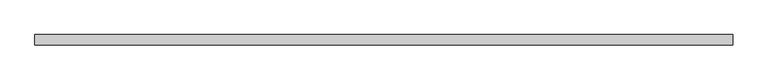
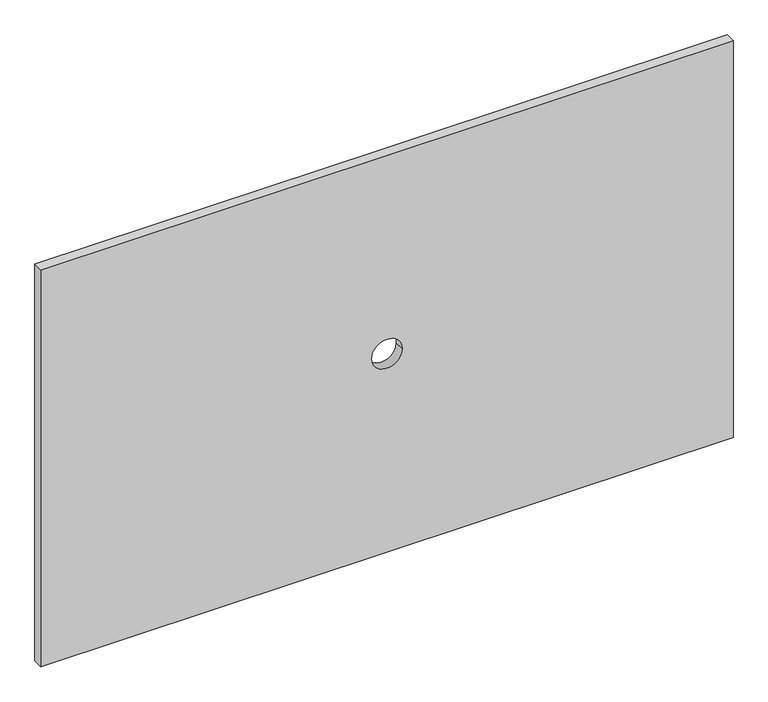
"""IFC4 building model written with IfcOpenShell, lengths in millimetres: furniture geometry, Painel de Suporte da TV : Painel de Suporte da TV."""

from ifc_helpers import new_model, si_unit, frame, origin, place, context, project, spatial, polyline, circle_curve, source, transform, mapped, element, save
from ifc_brep_helpers import plane_surface, revolved_surface, advanced_brep


def furniture_2331d2df(model_context):
    return source(origin(), model_context, "Body", "AdvancedBrep", [
        advanced_brep(
        [(0.0, 20.0, 825.0), (0.0, 0.0, 825.0), (1360.0, 0.0, 825.0), (1360.0, 20.0, 825.0), (680.0, 20.0, 825.0), (0.0, 20.0, 0.0), (680.0, 20.0, 0.0), (1360.0, 20.0, 0.0), (1360.0, 0.0, 0.0), (0.0, 0.0, 0.0), (650.0, 0.0, 412.5), (710.0, 0.0, 412.5), (680.0, 20.0, 382.5), (710.0, 20.0, 412.5), (680.0, 20.0, 442.5), (650.0, 20.0, 412.5)],
        [
            (0, 1),
            (1, 2),
            (2, 3),
            (3, 4),
            (4, 0),
            (5, 6),
            (6, 7),
            (7, 8),
            (8, 9),
            (9, 5),
            (0, 5),
            (9, 1),
            (8, 2),
            (10, 11, circle_curve(frame((680.0, 0.0, 412.5), z_axis=(0.0, 1.0, 0.0), x_axis=(1.0, 0.0, 0.0)), 30.0)),
            (11, 10, circle_curve(frame((680.0, 0.0, 412.5), z_axis=(0.0, 1.0, 0.0), x_axis=(1.0, 0.0, 0.0)), 30.0)),
            (7, 3),
            (6, 12),
            (12, 13, circle_curve(frame((680.0, 20.0, 412.5), z_axis=(0.0, -1.0, 0.0), x_axis=(1.0, 0.0, 0.0)), 30.0)),
            (13, 14, circle_curve(frame((680.0, 20.0, 412.5), z_axis=(0.0, -1.0, 0.0), x_axis=(1.0, 0.0, 0.0)), 30.0)),
            (14, 4),
            (14, 15, circle_curve(frame((680.0, 20.0, 412.5), z_axis=(0.0, -1.0, 0.0), x_axis=(1.0, 0.0, 0.0)), 30.0)),
            (15, 12, circle_curve(frame((680.0, 20.0, 412.5), z_axis=(0.0, -1.0, 0.0), x_axis=(1.0, 0.0, 0.0)), 30.0)),
            (13, 11),
            (10, 15),
        ],
        [
            plane_surface(frame((0.0, 20.0, 825.0), z_axis=(0.0, 0.0, 1.0), x_axis=(0.0, -1.0, 0.0))),
            plane_surface(frame((0.0, 20.0, 0.0), z_axis=(0.0, 0.0, -1.0), x_axis=(0.0, 1.0, 0.0))),
            plane_surface(frame((0.0, 20.0, 825.0), z_axis=(-1.0, 0.0, 0.0), x_axis=(0.0, 0.0, -1.0))),
            plane_surface(frame((0.0, 0.0, 825.0), z_axis=(0.0, -1.0, 0.0), x_axis=(0.0, 0.0, -1.0))),
            plane_surface(frame((1360.0, 0.0, 825.0), z_axis=(1.0, 0.0, 0.0), x_axis=(0.0, 0.0, -1.0))),
            plane_surface(frame((1360.0, 20.0, 825.0), z_axis=(0.0, 1.0, 0.0), x_axis=(0.0, 0.0, -1.0))),
            plane_surface(frame((680.0, 20.0, 825.0), z_axis=(0.0, 1.0, 0.0), x_axis=(0.0, 0.0, -1.0))),
            revolved_surface(polyline([(710.0, 20.0, 412.5), (710.0, 0.0, 412.5)]), (680.0, 0.0, 412.5), (0.0, 1.0, 0.0)),
        ],
        [
            (0, [[1, 2, 3, 4, 5]]),
            (1, [[6, 7, 8, 9, 10]]),
            (2, [[-1, 11, -10, 12]]),
            (3, [[-2, -12, -9, 13], [14, 15]]),
            (4, [[-3, -13, -8, 16]]),
            (5, [[-4, -16, -7, 17, 18, 19, 20]]),
            (6, [[-5, -20, 21, 22, -17, -6, -11]]),
            (7, [[23, -14, 24, -21, -19]]),
            (7, [[-23, -18, -22, -24, -15]]),
        ],
    ),
    ])


if __name__ == "__main__":
    model = new_model("IFC4")
    model_context = context("Model", 3, world=origin())
    ifc_project = project(units=[si_unit("LENGTHUNIT", "METRE", prefix="MILLI")], contexts=[model_context])
    site = spatial("IfcSite", under=ifc_project)
    building = spatial("IfcBuilding", under=site)
    placement = place(None, origin())
    furniture_shape = furniture_2331d2df(model_context)
    element("IfcFurniture", 1, ObjectType="Painel de Suporte da TV : Painel de Suporte da TV", at=placement, inside=building, context=model_context, shape_type="MappedRepresentation", body=[
        mapped(furniture_shape, transform((0.0, 0.0, 0.0), x_axis=(1.0, 0.0, 0.0), y_axis=(0.0, 1.0, 0.0), z_axis=(0.0, 0.0, 1.0))),
    ])
    save(model, "model.ifc")
